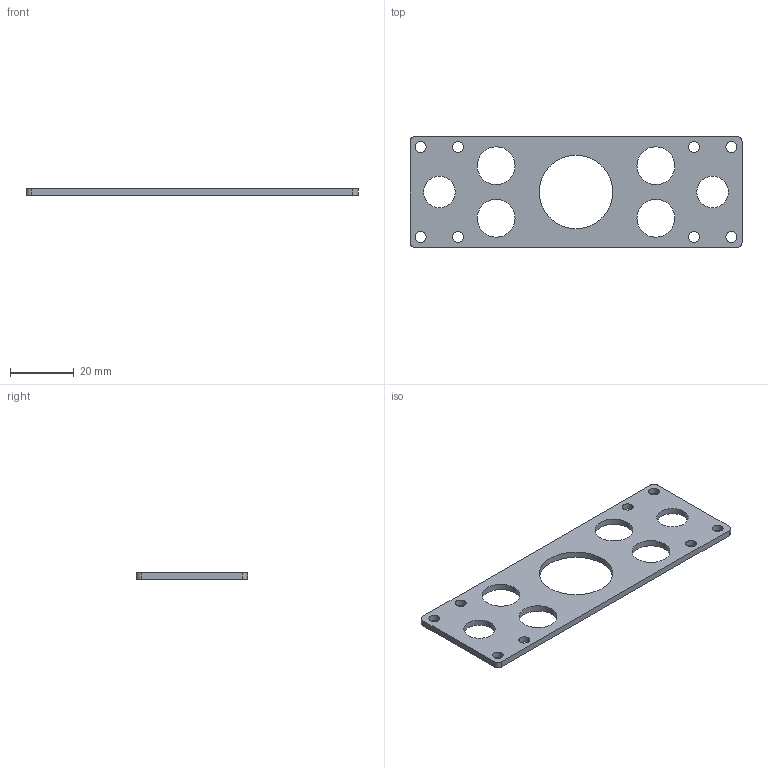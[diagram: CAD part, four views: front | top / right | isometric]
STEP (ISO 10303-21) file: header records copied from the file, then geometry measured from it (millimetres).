
FILE_DESCRIPTION (( 'STEP AP214' ), '1' );
FILE_NAME ('SMBD2-12050.STEP', '2019-10-31T07:25:21', ( '微软用户' ), ( '微软中国' ), 'SwSTEP 2.0', 'SolidWorks 2016', '' );
FILE_SCHEMA (( 'AUTOMOTIVE_DESIGN' ));
Length unit declared in the file: millimetre
Products named in the file (1): SMBD2-12050
Bounding box: 104 x 34.89 x 2 mm (x, y, z)
Volume: 5082.5 mm3; surface area: 6371 mm2
Topology: 1 solids, 1 shells, 40 faces, 114 edges, 76 vertices
Faces by surface type: cylinder 34, plane 6
Entity records: 1440 total; most frequent: DIRECTION 264, CARTESIAN_POINT 231, ORIENTED_EDGE 228, EDGE_CURVE 114, AXIS2_PLACEMENT_3D 109, VERTEX_POINT 76, EDGE_LOOP 70, CIRCLE 68
